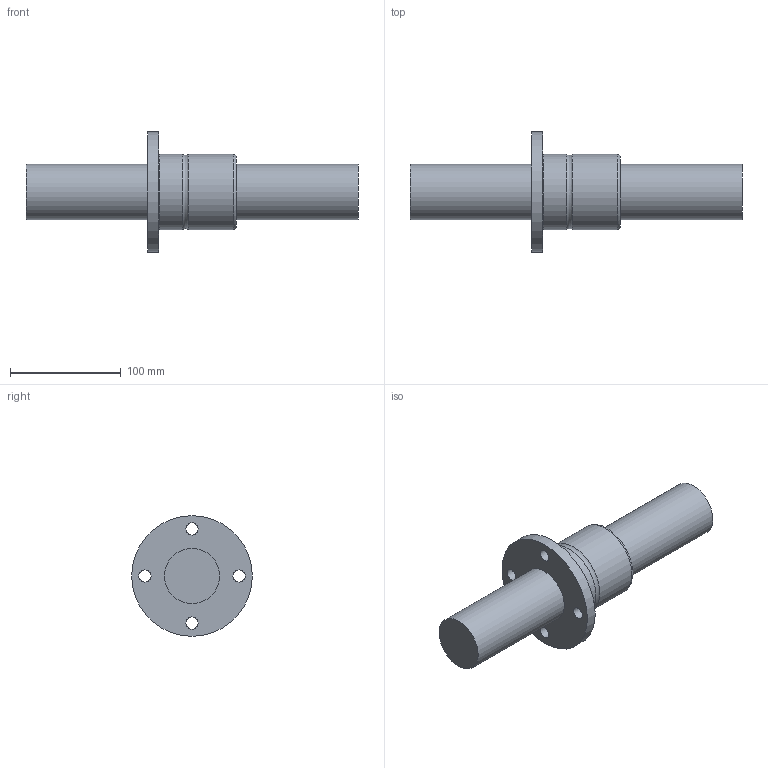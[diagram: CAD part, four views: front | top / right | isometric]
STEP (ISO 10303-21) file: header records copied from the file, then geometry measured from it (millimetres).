
FILE_DESCRIPTION((''),'2;1');
FILE_NAME('D:\製品 (図面)\カタログ用3D\ネジ関連\STEP形式\TMF-OH\TMF50-OH.stp','2010-06-02T15:16:25',('Tsuchiya'),(''),'Autodesk Inventor 10','Autodesk Inventor 10','');
FILE_SCHEMA(('AUTOMOTIVE_DESIGN { 1 0 10303 214 1 1 1 1 }'));
Length unit declared in the file: millimetre
Products named in the file (3): TMF50-OH; TMF50-OH1; TMF50-OH2
Assembly tree (2 placements, depth 2):
  TMF50-OH
    TMF50-OH1
    TMF50-OH2
Bounding box: 300 x 109 x 109 mm (x, y, z)
Volume: 774598.3 mm3; surface area: 97242 mm2
Topology: 2 solids, 2 shells, 18 faces, 40 edges, 27 vertices
Faces by surface type: cylinder 10, plane 5, bspline 2, torus 1
Full cylindrical faces by diameter (mm): 4 x1, 11 x4, 50 x2, 68 x2, 109 x1
Entity records: 723 total; most frequent: CARTESIAN_POINT 300, DIRECTION 82, ORIENTED_EDGE 44, EDGE_LOOP 44, AXIS2_PLACEMENT_3D 41, FACE_BOUND 26, VERTEX_POINT 22, EDGE_CURVE 22
